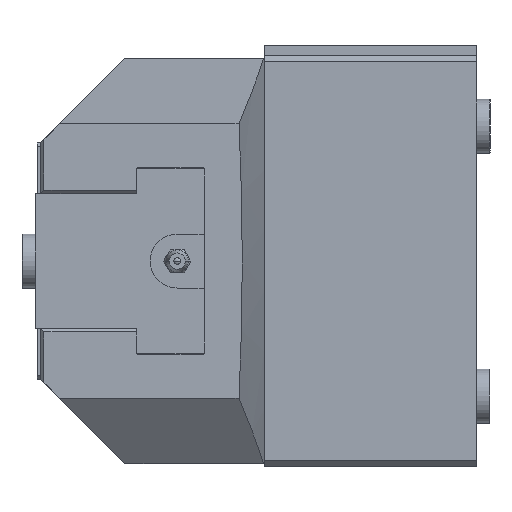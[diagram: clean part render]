
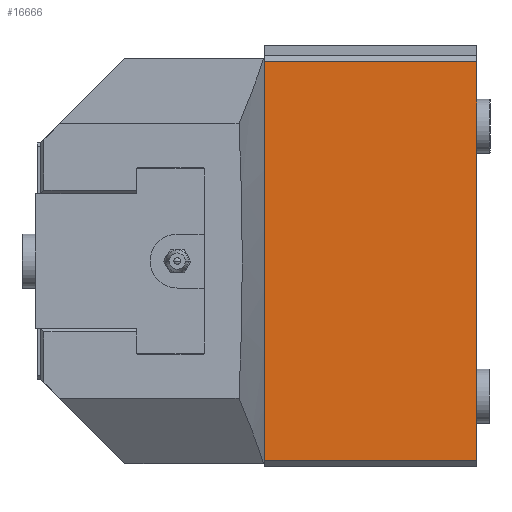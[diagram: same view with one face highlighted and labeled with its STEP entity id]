
A CAD part, left-side view. The second image highlights one B-rep face of the part: STEP entity #16666.
In plain terms, the highlighted planar face has unit normal (-1, 0, 0).
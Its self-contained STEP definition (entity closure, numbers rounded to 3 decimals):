
#850 = VERTEX_POINT ( 'NONE', #7574 ) ;
#1047 = LINE ( 'NONE', #2353, #10704 ) ;
#1273 = VECTOR ( 'NONE', #5154, 1000. ) ;
#1406 = DIRECTION ( 'NONE',  ( 0., 0., -1. ) ) ;
#2353 = CARTESIAN_POINT ( 'NONE',  ( -93., 62.9, 64. ) ) ;
#2371 = CARTESIAN_POINT ( 'NONE',  ( -93., 0., -59. ) ) ;
#2573 = DIRECTION ( 'NONE',  ( 0., 1., 0. ) ) ;
#2699 = PLANE ( 'NONE',  #10339 ) ;
#3615 = ORIENTED_EDGE ( 'NONE', *, *, #6364, .T. ) ;
#4030 = DIRECTION ( 'NONE',  ( 0., 0., 1. ) ) ;
#4086 = DIRECTION ( 'NONE',  ( 1., 0., 0. ) ) ;
#5154 = DIRECTION ( 'NONE',  ( 0., -1., 0. ) ) ;
#5275 = ORIENTED_EDGE ( 'NONE', *, *, #11392, .T. ) ;
#6364 = EDGE_CURVE ( 'NONE', #850, #16169, #8176, .T. ) ;
#6557 = LINE ( 'NONE', #12267, #1273 ) ;
#6684 = VERTEX_POINT ( 'NONE', #2371 ) ;
#6988 = VECTOR ( 'NONE', #2573, 1000. ) ;
#7574 = CARTESIAN_POINT ( 'NONE',  ( -93., 0., 59. ) ) ;
#7920 = DIRECTION ( 'NONE',  ( 0., 0., 1. ) ) ;
#8176 = LINE ( 'NONE', #15378, #6988 ) ;
#8222 = VECTOR ( 'NONE', #7920, 1000. ) ;
#8468 = EDGE_CURVE ( 'NONE', #6684, #850, #9146, .T. ) ;
#8702 = CARTESIAN_POINT ( 'NONE',  ( -93., 62.9, 59. ) ) ;
#9146 = LINE ( 'NONE', #10465, #8222 ) ;
#9492 = ORIENTED_EDGE ( 'NONE', *, *, #13755, .F. ) ;
#10339 = AXIS2_PLACEMENT_3D ( 'NONE', #15779, #4086, #1406 ) ;
#10465 = CARTESIAN_POINT ( 'NONE',  ( -93., 0., 64. ) ) ;
#10548 = EDGE_LOOP ( 'NONE', ( #13261, #3615, #9492, #5275 ) ) ;
#10704 = VECTOR ( 'NONE', #4030, 1000. ) ;
#11392 = EDGE_CURVE ( 'NONE', #15644, #6684, #6557, .T. ) ;
#12267 = CARTESIAN_POINT ( 'NONE',  ( -93., 62.9, -59. ) ) ;
#12779 = FACE_OUTER_BOUND ( 'NONE', #10548, .T. ) ;
#13261 = ORIENTED_EDGE ( 'NONE', *, *, #8468, .T. ) ;
#13755 = EDGE_CURVE ( 'NONE', #15644, #16169, #1047, .T. ) ;
#15378 = CARTESIAN_POINT ( 'NONE',  ( -93., 62.9, 59. ) ) ;
#15644 = VERTEX_POINT ( 'NONE', #18047 ) ;
#15779 = CARTESIAN_POINT ( 'NONE',  ( -93., 62.9, 64. ) ) ;
#16169 = VERTEX_POINT ( 'NONE', #8702 ) ;
#16666 = ADVANCED_FACE ( 'NONE', ( #12779 ), #2699, .F. ) ;
#18047 = CARTESIAN_POINT ( 'NONE',  ( -93., 62.9, -59. ) ) ;
